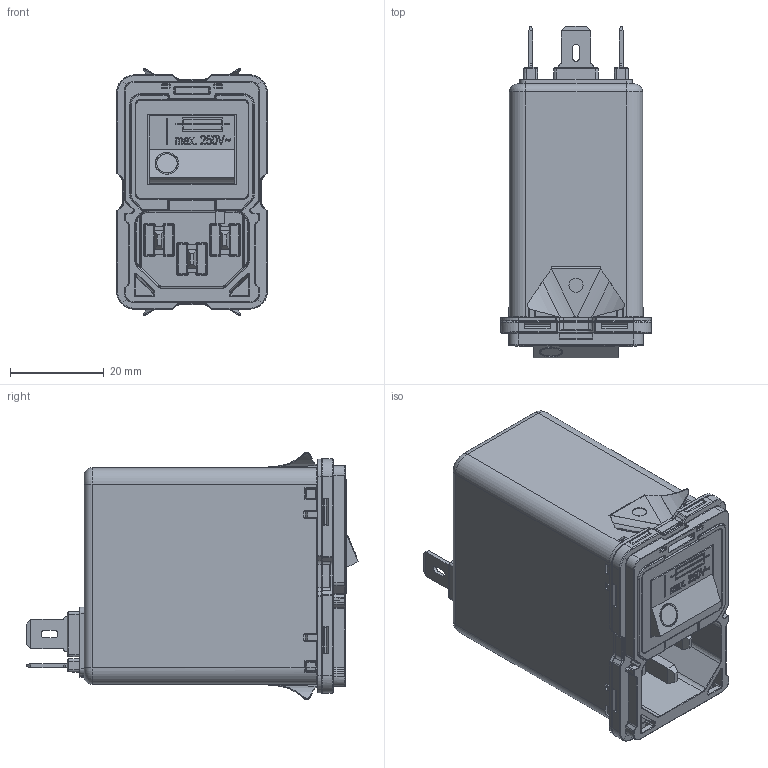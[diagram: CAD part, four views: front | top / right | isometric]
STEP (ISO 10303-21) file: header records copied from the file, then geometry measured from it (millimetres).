
FILE_DESCRIPTION((''),'2;1');
FILE_NAME('H:\02_Projects\A_Others\Z_Support\Luis\Cherry_STP\Step_Files\1 Stage\1_stage_faston_vertical_snap.stp','2012-07-26T15:11:26',('Samuel.Meier'),(''),'Autodesk Inventor 2010','Autodesk Inventor 2010','');
FILE_SCHEMA(('AUTOMOTIVE_DESIGN { 1 2 10303 214 0 1 1 1 }'));
Length unit declared in the file: millimetre
Products named in the file (1): 1_stage_faston_vertical_snap
Bounding box: 32.1 x 70.74 x 52.7 mm (x, y, z)
Surface area: 36902.4 mm2 (no closed solid volume)
Topology: 0 solids, 12 shells, 3012 faces, 7967 edges, 4894 vertices
Faces by surface type: plane 1198, cylinder 1114, bspline 488, sphere 91, torus 85, cone 36
Full cylindrical faces by diameter (mm): 0.8 x4, 1 x2, 1.1 x10, 1.2 x1, 2.7 x1, 3 x2, 3.3 x1, 3.6 x1, 4 x2, 6.5 x1, 7.2 x1, 8.2 x1
Entity records: 103084 total; most frequent: CARTESIAN_POINT 26946, ORIENTED_EDGE 15678, DIRECTION 15014, EDGE_CURVE 7839, AXIS2_PLACEMENT_3D 5258, VERTEX_POINT 4886, VECTOR 4498, LINE 4498
